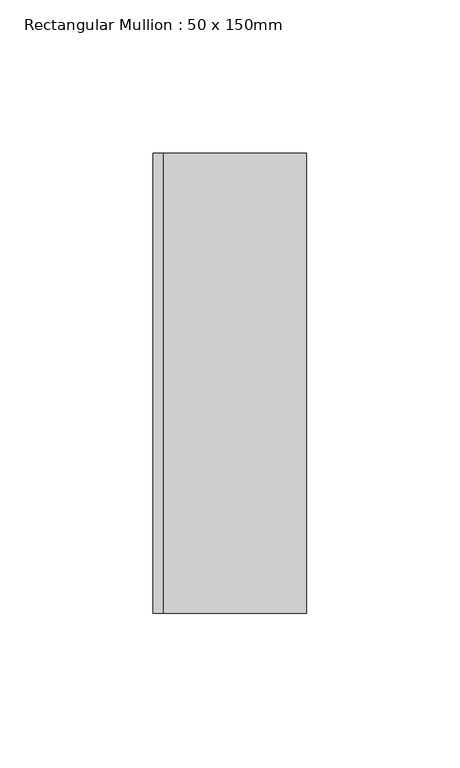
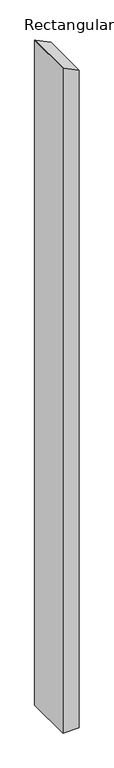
"""IFC4 building model written with IfcOpenShell, lengths in millimetres: member geometry, Rectangular Mullion : 50 x 150mm."""

from ifc_helpers import new_model, si_unit, frame, origin, place, context, project, spatial, polyline, outline, extrude, source, transform, mapped, element, save


def rectangular_mullion_50_x_150mm_ab3df00f(model_context):
    return source(origin(), model_context, "Body", "SweptSolid", [
        extrude(outline(polyline([(-67.6446658, 25.0), (-45.0525816, -21.6858426), (-43.4658351, -25.0), (-2198.6303879, -25.0), (-2198.6303879, 25.0), (-67.6446658, 25.0)])), frame((0.0, -75.0, 0.0), z_axis=(0.0, 1.0, 0.0), x_axis=(0.0, 0.0, 1.0)), (0.0, 0.0, 1.0), 150.0),
    ])


if __name__ == "__main__":
    model = new_model("IFC4")
    model_context = context("Model", 3, world=origin())
    ifc_project = project(units=[si_unit("LENGTHUNIT", "METRE", prefix="MILLI")], contexts=[model_context])
    site = spatial("IfcSite", under=ifc_project)
    building = spatial("IfcBuilding", under=site)
    placement = place(None, origin())
    rectangular_mullion_50_x_150mm_shape = rectangular_mullion_50_x_150mm_ab3df00f(model_context)
    element("IfcMember", 1, ObjectType="Rectangular Mullion : 50 x 150mm", at=placement, inside=building, context=model_context, shape_type="MappedRepresentation", body=[
        mapped(rectangular_mullion_50_x_150mm_shape, transform((0.0, 0.0, 0.0), x_axis=(1.0, 0.0, 0.0), y_axis=(0.0, 1.0, 0.0), z_axis=(0.0, 0.0, 1.0))),
    ])
    save(model, "model.ifc")
